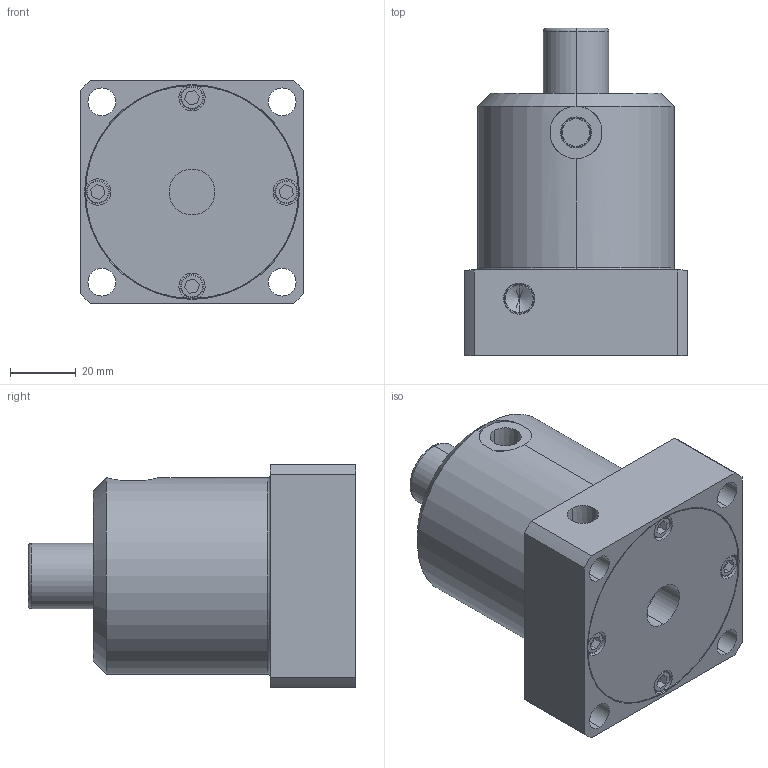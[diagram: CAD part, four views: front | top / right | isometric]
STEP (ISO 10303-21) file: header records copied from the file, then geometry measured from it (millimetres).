
FILE_DESCRIPTION((''),'2;1');
FILE_NAME('001_DESTACO_035_910_ASM','2024-02-28T',('SYSTEM'),(''),'PRO/ENGINEER BY PARAMETRIC TECHNOLOGY CORPORATION, 2016360','PRO/ENGINEER BY PARAMETRIC TECHNOLOGY CORPORATION, 2016360','');
FILE_SCHEMA(('AUTOMOTIVE_DESIGN { 1 0 10303 214 1 1 1 1 }'));
Products named in the file (10): 250BODY_6; 250BODY_4; 250BODY_3; 2; 250BODY_2; 250BODY_0; 250-BODY_ASM; 250BODY_1; 250-SHAFT_ASM; 001_DESTACO_035_910_ASM
Assembly tree (9 placements, depth 3):
  001_DESTACO_035_910_ASM
    250-BODY_ASM
      250BODY_6
      250BODY_4
      250BODY_3
      2
      250BODY_2
      250BODY_0
    250-SHAFT_ASM
      250BODY_1
Bounding box: 68 x 99.81 x 68 mm (x, y, z)
Volume: 265960.4 mm3; surface area: 51713.5 mm2
Topology: 7 solids, 7 shells, 162 faces, 376 edges, 238 vertices
Faces by surface type: cylinder 68, plane 60, cone 30, torus 4
Entity records: 6568 total; most frequent: DIRECTION 922, CARTESIAN_POINT 916, ORIENTED_EDGE 740, PRESENTATION_STYLE_ASSIGNMENT 377, STYLED_ITEM 377, CURVE_STYLE 370, EDGE_CURVE 370, AXIS2_PLACEMENT_3D 368
